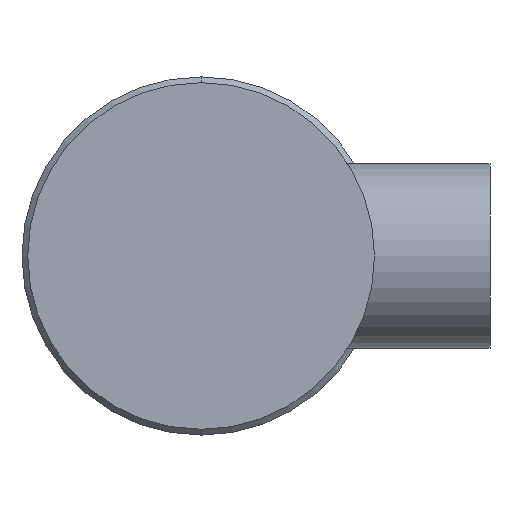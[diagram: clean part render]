
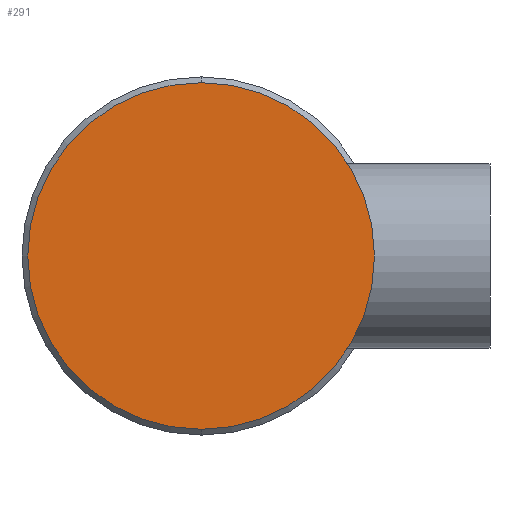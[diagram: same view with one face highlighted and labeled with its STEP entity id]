
A CAD part, left-side view. The second image highlights one B-rep face of the part: STEP entity #291.
In plain terms, the highlighted planar face has unit normal (-1, 0, 0).
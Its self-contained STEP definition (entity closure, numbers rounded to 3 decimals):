
#33 = DIRECTION ( 'NONE',  ( 0., 0., -1. ) ) ;
#81 = EDGE_LOOP ( 'NONE', ( #1184, #995 ) ) ;
#98 = CARTESIAN_POINT ( 'NONE',  ( 0., 0., 0. ) ) ;
#215 = DIRECTION ( 'NONE',  ( 0., 0., 1. ) ) ;
#227 = DIRECTION ( 'NONE',  ( 0., 0., 1. ) ) ;
#291 = ADVANCED_FACE ( 'NONE', ( #1107 ), #1355, .F. ) ;
#390 = CARTESIAN_POINT ( 'NONE',  ( 0., 0., 0. ) ) ;
#445 = VERTEX_POINT ( 'NONE', #798 ) ;
#463 = VERTEX_POINT ( 'NONE', #791 ) ;
#525 = CARTESIAN_POINT ( 'NONE',  ( 0., 0., 0. ) ) ;
#619 = CIRCLE ( 'NONE', #776, 15. ) ;
#776 = AXIS2_PLACEMENT_3D ( 'NONE', #98, #941, #215 ) ;
#791 = CARTESIAN_POINT ( 'NONE',  ( 0., 0., -15. ) ) ;
#798 = CARTESIAN_POINT ( 'NONE',  ( 0., 0., 15. ) ) ;
#812 = EDGE_CURVE ( 'NONE', #445, #463, #1517, .T. ) ;
#826 = DIRECTION ( 'NONE',  ( -1., 0., 0. ) ) ;
#855 = AXIS2_PLACEMENT_3D ( 'NONE', #390, #876, #33 ) ;
#867 = AXIS2_PLACEMENT_3D ( 'NONE', #525, #826, #227 ) ;
#876 = DIRECTION ( 'NONE',  ( 1., 0., 0. ) ) ;
#941 = DIRECTION ( 'NONE',  ( -1., 0., 0. ) ) ;
#995 = ORIENTED_EDGE ( 'NONE', *, *, #1405, .T. ) ;
#1107 = FACE_OUTER_BOUND ( 'NONE', #81, .T. ) ;
#1184 = ORIENTED_EDGE ( 'NONE', *, *, #812, .T. ) ;
#1355 = PLANE ( 'NONE',  #855 ) ;
#1405 = EDGE_CURVE ( 'NONE', #463, #445, #619, .T. ) ;
#1517 = CIRCLE ( 'NONE', #867, 15. ) ;
